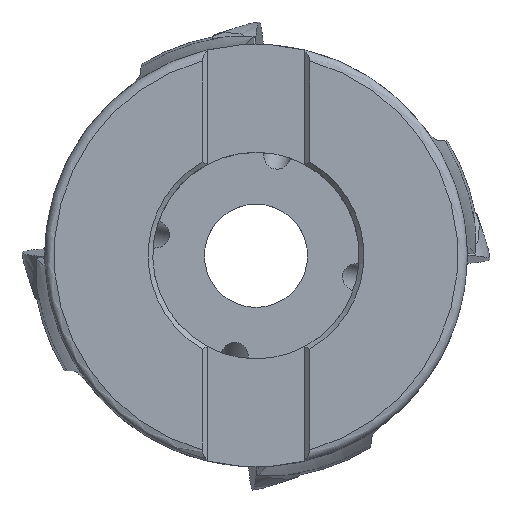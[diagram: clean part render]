
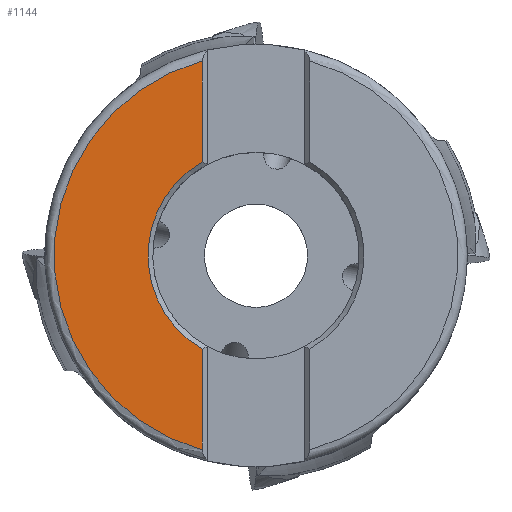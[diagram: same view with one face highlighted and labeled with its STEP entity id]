
A CAD part, top view. The second image highlights one B-rep face of the part: STEP entity #1144.
In plain terms, the highlighted planar face has unit normal (0, 0, 1).
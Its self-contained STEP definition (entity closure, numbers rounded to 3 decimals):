
#976=FACE_OUTER_BOUND('',#1853,.T.);
#1144=ADVANCED_FACE('',(#976),#1294,.F.);
#1294=PLANE('',#4626);
#1389=LINE('',#7006,#1533);
#1390=LINE('',#7010,#1534);
#1533=VECTOR('',#5315,1.);
#1534=VECTOR('',#5318,1.);
#1853=EDGE_LOOP('',(#2343,#2344,#2345,#2346));
#2343=ORIENTED_EDGE('',*,*,#3876,.T.);
#2344=ORIENTED_EDGE('',*,*,#3877,.T.);
#2345=ORIENTED_EDGE('',*,*,#3878,.T.);
#2346=ORIENTED_EDGE('',*,*,#3879,.T.);
#3391=VERTEX_POINT('',#7004);
#3392=VERTEX_POINT('',#7005);
#3393=VERTEX_POINT('',#7007);
#3394=VERTEX_POINT('',#7009);
#3876=EDGE_CURVE('',#3391,#3392,#4333,.T.);
#3877=EDGE_CURVE('',#3392,#3393,#1389,.T.);
#3878=EDGE_CURVE('',#3393,#3394,#4334,.T.);
#3879=EDGE_CURVE('',#3394,#3391,#1390,.T.);
#4333=CIRCLE('',#4624,21.5);
#4334=CIRCLE('',#4625,11.5);
#4624=AXIS2_PLACEMENT_3D('',#7003,#5313,#5314);
#4625=AXIS2_PLACEMENT_3D('',#7008,#5316,#5317);
#4626=AXIS2_PLACEMENT_3D('',#7011,#5319,#5320);
#5313=DIRECTION('',(0.,0.,1.));
#5314=DIRECTION('',(-1.,0.,0.));
#5315=DIRECTION('',(0.,1.,0.));
#5316=DIRECTION('',(0.,0.,-1.));
#5317=DIRECTION('',(-1.,0.,0.));
#5318=DIRECTION('',(0.,1.,0.));
#5319=DIRECTION('',(0.,0.,-1.));
#5320=DIRECTION('',(1.,0.,0.));
#7003=CARTESIAN_POINT('',(0.,0.,0.));
#7004=CARTESIAN_POINT('',(-5.7,20.731,0.));
#7005=CARTESIAN_POINT('',(-5.7,-20.731,0.));
#7006=CARTESIAN_POINT('',(-5.7,0.,0.));
#7007=CARTESIAN_POINT('',(-5.7,-9.988,0.));
#7008=CARTESIAN_POINT('',(0.,0.,0.));
#7009=CARTESIAN_POINT('',(-5.7,9.988,0.));
#7010=CARTESIAN_POINT('',(-5.7,0.,0.));
#7011=CARTESIAN_POINT('',(-22.5,0.,0.));
